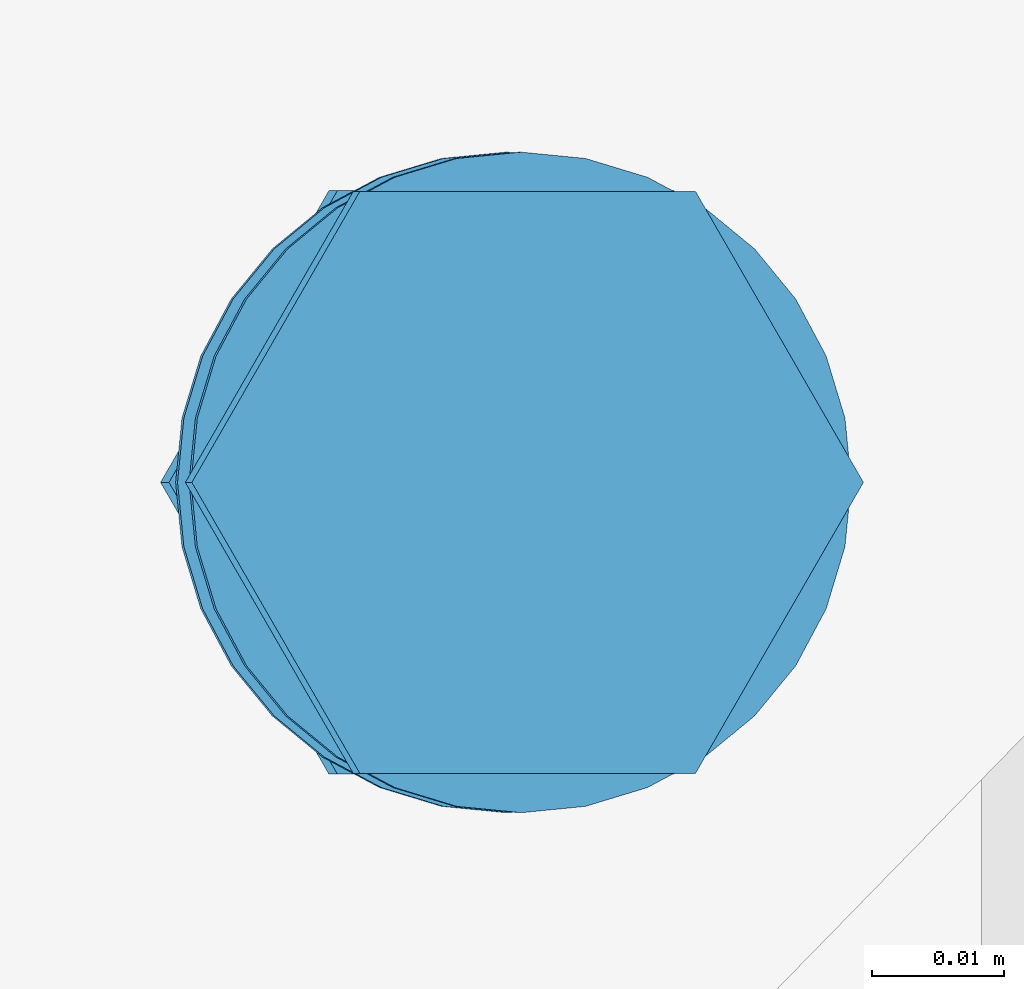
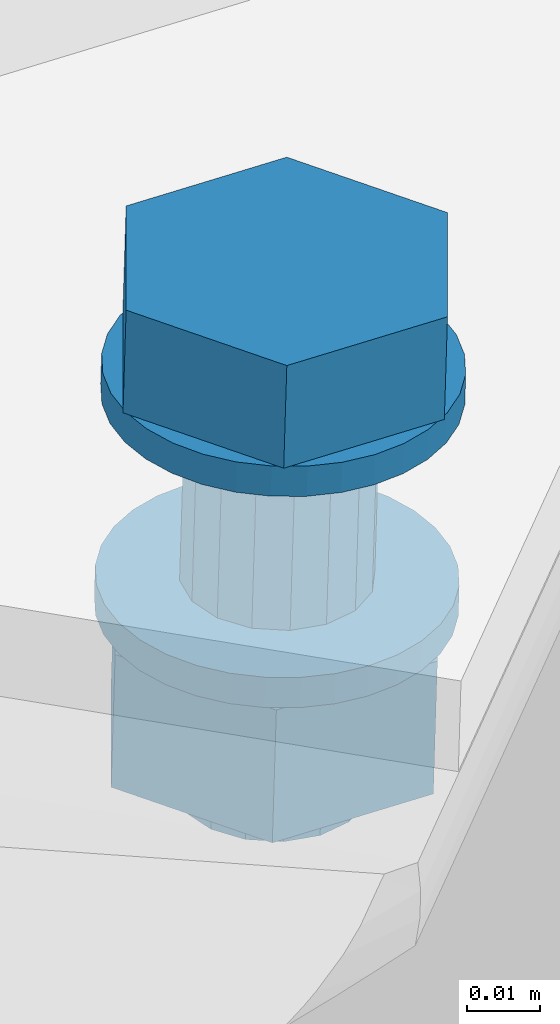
# One storey, part 247 of 476: 1 mechanical fastener.
"""IFC2X3 building model written with IfcOpenShell, lengths in millimetres."""

import ifcopenshell
import ifcopenshell.guid

model = None  # the IFC model being written
_history = None  # IfcOwnerHistory: only IFC2X3 demands one
_inside = {}  # id of a spatial element -> (the spatial element, [elements in it])
_under = {}  # id of a project, library or spatial element -> (it, [spatial elements below it])
_declared = {}  # id of a project -> (the project, [libraries it declares])
_typed = {}  # id of a type object -> (the type object, [elements of that type])
_made_of = {}  # id of a material, layer set ... -> (it, [elements and type objects made of it])


def new_model(schema):
    """Start an empty IFC model of exactly this schema.

    Asked for "IFC4X3", IfcOpenShell would pick the latest addendum, in which some entities
    have other attributes; the version numbers below select the first issue.
    IFC2X3 requires an IfcOwnerHistory on every rooted entity: one is made here for all.
    """
    global model, _history
    if schema == "IFC4X3":
        model = ifcopenshell.file(schema_version=(4, 3, 0, 0))
    else:
        model = ifcopenshell.file(schema=schema)
    _inside.clear()
    _under.clear()
    _declared.clear()
    _typed.clear()
    _made_of.clear()
    _history = None
    if model.schema == "IFC2X3":
        org = make("IfcOrganization", Name="unknown")
        user = make(
            "IfcPersonAndOrganization",
            ThePerson=make("IfcPerson", FamilyName="unknown"),
            TheOrganization=org,
        )
        app = make(
            "IfcApplication",
            ApplicationDeveloper=org,
            Version="unknown",
            ApplicationFullName="unknown",
            ApplicationIdentifier="unknown",
        )
        _history = make(
            "IfcOwnerHistory",
            OwningUser=user,
            OwningApplication=app,
            ChangeAction="ADDED",
            CreationDate=0,
        )
    return model


def make(cls, **values):
    """One entity of the class cls with the attributes given. An attribute that is None is left unset."""
    return model.create_entity(
        cls, **{name: value for name, value in values.items() if value is not None}
    )


def entity(cls, *values):
    """Any entity or typed value of the class cls, its attributes in the order of the schema. None: left unset."""
    e = model.create_entity(cls)
    for i, value in enumerate(values):
        if value is not None:
            e[i] = value
    return e


def rooted(cls, **values):
    """An entity with a GlobalId (a new one), such as an element, a storey or a relation."""
    return make(cls, GlobalId=ifcopenshell.guid.new(), OwnerHistory=_history, **values)


def si_unit(unit_type, name, prefix=None):
    """IfcSIUnit, for example si_unit("LENGTHUNIT", "METRE", prefix="MILLI")."""
    return make("IfcSIUnit", UnitType=unit_type, Prefix=prefix, Name=name)


def converted_unit(unit_type, name, factor, base, dimensions=None, offset=None):
    """IfcConversionBasedUnit, such as the inch: factor (a typed value) times the base unit."""
    return make(
        "IfcConversionBasedUnit"
        if offset is None
        else "IfcConversionBasedUnitWithOffset",
        ConversionOffset=offset,
        Dimensions=None
        if dimensions is None
        else entity("IfcDimensionalExponents", *dimensions),
        UnitType=unit_type,
        Name=name,
        ConversionFactor=make(
            "IfcMeasureWithUnit", ValueComponent=factor, UnitComponent=base
        ),
    )


def assignment(units):
    """IfcUnitAssignment: the units of a project."""
    return None if units is None else make("IfcUnitAssignment", Units=units)


def point(xyz):
    """IfcCartesianPoint."""
    return None if xyz is None else make("IfcCartesianPoint", Coordinates=xyz)


def direction(xyz):
    """IfcDirection."""
    return None if xyz is None else make("IfcDirection", DirectionRatios=xyz)


def frame(location, z_axis=None, x_axis=None):
    """IfcAxis2Placement3D, a coordinate frame: its origin and axes. An axis left out is left unset."""
    return make(
        "IfcAxis2Placement3D",
        Location=point(location),
        Axis=direction(z_axis),
        RefDirection=direction(x_axis),
    )


def origin_with_axes():
    """The frame at (0, 0, 0) with the z axis (0, 0, 1) and the x axis (1, 0, 0) written out."""
    return frame((0.0, 0.0, 0.0), z_axis=(0.0, 0.0, 1.0), x_axis=(1.0, 0.0, 0.0))


def place(relative_to, where):
    """IfcLocalPlacement: puts the frame where relative to a parent placement (None: the world)."""
    return make(
        "IfcLocalPlacement", PlacementRelTo=relative_to, RelativePlacement=where
    )


def context(
    kind, dimensions, precision=None, world=None, true_north=None, identifier=None
):
    """IfcGeometricRepresentationContext, for example the 3D "Model" context."""
    return make(
        "IfcGeometricRepresentationContext",
        ContextIdentifier=identifier,
        ContextType=kind,
        CoordinateSpaceDimension=dimensions,
        Precision=precision,
        WorldCoordinateSystem=world,
        TrueNorth=true_north,
    )


def project(units=None, contexts=None):
    """IfcProject with its units and contexts."""
    return rooted(
        "IfcProject",
        Name="project",
        RepresentationContexts=contexts,
        UnitsInContext=assignment(units),
    )


def spatial(cls, under=None, at=None, **own):
    """A site, building, storey or space (cls), placed at a placement, below another one or the project."""
    s = rooted(cls, ObjectPlacement=at, **own)
    if under is not None:
        _under.setdefault(under.id(), (under, []))[1].append(s)
    return s


def faces_of(points, faces, orient=None, outer=None):
    """IfcFace entities. A face is a list of loops; a loop is a list of indices into points, from 0.

    orient and outer hold one flag for each loop. By default every Orientation is true, the
    first loop of a face is its IfcFaceOuterBound and the others are IfcFaceBound.
    """
    made = []
    for i, loops in enumerate(faces):
        bounds = []
        for j, loop in enumerate(loops):
            is_outer = j == 0 if outer is None else outer[i][j]
            bounds.append(
                make(
                    "IfcFaceOuterBound" if is_outer else "IfcFaceBound",
                    Bound=make("IfcPolyLoop", Polygon=[points[k] for k in loop]),
                    Orientation=True if orient is None else orient[i][j],
                )
            )
        made.append(make("IfcFace", Bounds=bounds))
    return made


def faceted_brep(points, faces, orient=None, outer=None, voids=None):
    """IfcFacetedBrep: a solid bounded by flat faces; with voids (closed shells), ...WithVoids."""
    shared = [point(p) for p in points]
    hull = make("IfcClosedShell", CfsFaces=faces_of(shared, faces, orient, outer))
    if voids is None:
        return make("IfcFacetedBrep", Outer=hull)
    return make(
        "IfcFacetedBrepWithVoids",
        Outer=hull,
        Voids=[
            make(cls, CfsFaces=faces_of(shared, fs, o, b)) for cls, fs, o, b in voids
        ],
    )


def shape(context_of_items, identifier, shape_type, items):
    """IfcShapeRepresentation: the items that make up one representation, for example the "Body"."""
    return make(
        "IfcShapeRepresentation",
        ContextOfItems=context_of_items,
        RepresentationIdentifier=identifier,
        RepresentationType=shape_type,
        Items=items,
    )


def made_of(thing, what):
    """Note that an element or type object is made of a material, layer set ...; save() writes the relation."""
    if what is not None:
        _made_of.setdefault(what.id(), (what, []))[1].append(thing)
    return thing


def element(
    cls,
    number,
    at=None,
    inside=None,
    cuts=None,
    type_object=None,
    material=None,
    context=None,
    identifier="Body",
    shape_type=None,
    held_by="IfcProductDefinitionShape",
    body=None,
    shapes=None,
    **own,
):
    """One element of the class cls, such as IfcWall. Its Tag is "e" and its number.

    at: its placement. inside: the storey or other place that contains it. cuts: it is an
    opening in that element (IfcRelVoidsElement). A single representation is given by context,
    identifier, shape_type and body (its items); several are given by shapes. held_by: the class
    of the entity that holds the representations. save() writes the other relations.
    """
    e = rooted(cls, Tag="e%d" % number, ObjectPlacement=at, **own)
    if body is not None:
        shapes = [shape(context, identifier, shape_type, body)]
    if shapes is not None:
        e.Representation = make(held_by, Representations=shapes)
    if inside is not None:
        _inside.setdefault(inside.id(), (inside, []))[1].append(e)
    if cuts is not None:
        rooted(
            "IfcRelVoidsElement", RelatingBuildingElement=cuts, RelatedOpeningElement=e
        )
    if type_object is not None:
        _typed.setdefault(type_object.id(), (type_object, []))[1].append(e)
    return made_of(e, material)


def aggregate(whole, parts):
    """IfcRelAggregates: a whole, such as a stair, and the parts it consists of."""
    return rooted("IfcRelAggregates", RelatingObject=whole, RelatedObjects=parts)


def save(model, path):
    """Write the relations noted so far, then the file.

    IfcRelAggregates (storeys below a building ...), IfcRelContainedInSpatialStructure (elements
    in a storey), IfcRelDefinesByType, IfcRelAssociatesMaterial and IfcRelDeclares: one each for
    every whole, place, type object, material and project.
    """
    for whole, parts in _under.values():
        aggregate(whole, parts)
    for where, things in _inside.values():
        rooted(
            "IfcRelContainedInSpatialStructure",
            RelatedElements=things,
            RelatingStructure=where,
        )
    for kind, things in _typed.values():
        rooted("IfcRelDefinesByType", RelatedObjects=things, RelatingType=kind)
    for what, things in _made_of.values():
        rooted("IfcRelAssociatesMaterial", RelatedObjects=things, RelatingMaterial=what)
    for by, libraries in _declared.values():
        rooted("IfcRelDeclares", RelatingContext=by, RelatedDefinitions=libraries)
    model.write(path)


model = new_model("IFC2X3")

# Units and contexts
model_context = context("Model", 3, precision=1e-09, world=origin_with_axes())
ifc_project = project(units=[si_unit("LENGTHUNIT", "METRE", prefix="MILLI"), si_unit("AREAUNIT", "SQUARE_METRE"), si_unit("VOLUMEUNIT", "CUBIC_METRE"), converted_unit("PLANEANGLEUNIT", "DEGREE", entity("IfcPlaneAngleMeasure", 0.01745329), si_unit("PLANEANGLEUNIT", "RADIAN"), dimensions=[0, 0, 0, 0, 0, 0, 0])], contexts=[model_context])

# Site, building, storey
site_placement = place(None, origin_with_axes())
site = spatial("IfcSite", under=ifc_project, at=site_placement, Name="mKR Teilneubau & Sanierung BA1 - Ostfildern", CompositionType="ELEMENT")
building_placement = place(site_placement, origin_with_axes())
building = spatial("IfcBuilding", under=site, at=building_placement, Name="Struktur 1", CompositionType="ELEMENT")
storey_placement = place(building_placement, origin_with_axes())
storey = spatial("IfcBuildingStorey", under=building, at=storey_placement, Name="Default Storey", CompositionType="ELEMENT", Elevation=0.0)

# Mechanical fastener
mechanical_fastener_placement = place(None, origin_with_axes())
element("IfcMechanicalFastener", 1, at=mechanical_fastener_placement, inside=storey, ObjectType="-", NominalDiameter=27.0, NominalLength=70.0, context=model_context, shape_type="Brep", body=[
    faceted_brep([(23525.63088106, -4349.025407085, 2980.632777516), (23525.776168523, -4349.025407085, 2985.630666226), (23530.651367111, -4349.505775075, 2985.488945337), (23530.506079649, -4349.505775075, 2980.491056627), (23535.339214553, -4350.928418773, 2985.352670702), (23535.19392709, -4350.928418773, 2980.354781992), (23539.659559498, -4353.238666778, 2985.227079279), (23539.514272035, -4353.238666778, 2980.229190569), (23543.446373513, -4356.347737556, 2985.116997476), (23543.301086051, -4356.347737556, 2980.119108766), (23546.554131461, -4360.13615126, 2985.026655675), (23546.408843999, -4360.13615126, 2980.028766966), (23548.863403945, -4364.458321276, 2984.959525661), (23548.718116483, -4364.458321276, 2979.961636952), (23550.28544692, -4369.148149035, 2984.918187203), (23550.140159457, -4369.148149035, 2979.920298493), (23550.765612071, -4374.025407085, 2984.904228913), (23550.620324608, -4374.025407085, 2979.906340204), (23550.28544692, -4378.902665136, 2984.918187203), (23550.140159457, -4378.902665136, 2979.920298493), (23548.863403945, -4383.592492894, 2984.959525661), (23548.718116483, -4383.592492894, 2979.961636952), (23546.554131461, -4387.914662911, 2985.026655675), (23546.408843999, -4387.914662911, 2980.028766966), (23543.446373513, -4391.703076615, 2985.116997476), (23543.301086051, -4391.703076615, 2980.119108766), (23539.659559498, -4394.812147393, 2985.227079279), (23539.514272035, -4394.812147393, 2980.229190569), (23535.339214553, -4397.122395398, 2985.352670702), (23535.19392709, -4397.122395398, 2980.354781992), (23530.651367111, -4398.545039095, 2985.488945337), (23530.506079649, -4398.545039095, 2980.491056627), (23525.776168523, -4399.025407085, 2985.630666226), (23525.63088106, -4399.025407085, 2980.632777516), (23520.900969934, -4398.545039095, 2985.772387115), (23520.755682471, -4398.545039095, 2980.774498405), (23516.213122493, -4397.122395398, 2985.90866175), (23516.06783503, -4397.122395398, 2980.91077304), (23511.892777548, -4394.812147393, 2986.034253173), (23511.747490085, -4394.812147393, 2981.036364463), (23508.105963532, -4391.703076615, 2986.144334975), (23507.960676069, -4391.703076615, 2981.146446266), (23504.998205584, -4387.914662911, 2986.234676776), (23504.852918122, -4387.914662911, 2981.236788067), (23502.6889331, -4383.592492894, 2986.30180679), (23502.543645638, -4383.592492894, 2981.303918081), (23501.266890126, -4378.902665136, 2986.343145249), (23501.121602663, -4378.902665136, 2981.345256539), (23500.786724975, -4374.025407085, 2986.357103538), (23500.641437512, -4374.025407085, 2981.359214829), (23501.266890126, -4369.148149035, 2986.343145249), (23501.121602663, -4369.148149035, 2981.345256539), (23502.6889331, -4364.458321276, 2986.30180679), (23502.543645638, -4364.458321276, 2981.303918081), (23504.998205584, -4360.13615126, 2986.234676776), (23504.852918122, -4360.13615126, 2981.236788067), (23508.105963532, -4356.347737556, 2986.144334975), (23507.960676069, -4356.347737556, 2981.146446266), (23511.892777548, -4353.238666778, 2986.034253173), (23511.747490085, -4353.238666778, 2981.036364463), (23516.213122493, -4350.928418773, 2985.90866175), (23516.06783503, -4350.928418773, 2980.91077304), (23520.900969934, -4349.505775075, 2985.772387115), (23520.755682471, -4349.505775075, 2980.774498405)], [[[0, 1, 2, 3]], [[3, 2, 4, 5]], [[5, 4, 6, 7]], [[7, 6, 8, 9]], [[9, 8, 10, 11]], [[11, 10, 12, 13]], [[13, 12, 14, 15]], [[15, 14, 16, 17]], [[17, 16, 18, 19]], [[19, 18, 20, 21]], [[21, 20, 22, 23]], [[23, 22, 24, 25]], [[25, 24, 26, 27]], [[27, 26, 28, 29]], [[29, 28, 30, 31]], [[31, 30, 32, 33]], [[33, 32, 34, 35]], [[35, 34, 36, 37]], [[37, 36, 38, 39]], [[39, 38, 40, 41]], [[41, 40, 42, 43]], [[43, 42, 44, 45]], [[45, 44, 46, 47]], [[47, 46, 48, 49]], [[49, 48, 50, 51]], [[51, 50, 52, 53]], [[53, 52, 54, 55]], [[55, 54, 56, 57]], [[57, 56, 58, 59]], [[59, 58, 60, 61]], [[61, 60, 62, 63]], [[63, 62, 1, 0]], [[2, 1, 62, 60, 58, 56, 54, 52, 50, 48, 46, 44, 42, 40, 38, 36, 34, 32, 30, 28, 26, 24, 22, 20, 18, 16, 14, 12, 10, 8, 6, 4]], [[63, 0, 3, 5, 7, 9, 11, 13, 15, 17, 19, 21, 23, 25, 27, 29, 31, 33, 35, 37, 39, 41, 43, 45, 47, 49, 51, 53, 55, 57, 59, 61]]]),
    faceted_brep([(23538.977277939, -4396.044102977, 3002.254094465), (23538.483300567, -4396.044102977, 2985.261272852), (23551.190432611, -4374.025407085, 2984.891879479), (23551.684409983, -4374.025407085, 3001.884701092), (23538.483300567, -4352.006711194, 2985.261272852), (23538.977277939, -4352.006711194, 3002.254094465), (23513.069036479, -4352.006711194, 2986.000059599), (23513.563013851, -4352.006711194, 3002.992881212), (23500.361904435, -4374.025407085, 2986.369452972), (23500.855881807, -4374.025407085, 3003.362274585), (23513.069036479, -4396.044102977, 2986.000059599), (23513.563013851, -4396.044102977, 3002.992881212)], [[[0, 1, 2, 3]], [[3, 2, 4, 5]], [[5, 4, 6, 7]], [[7, 6, 8, 9]], [[9, 8, 10, 11]], [[11, 10, 1, 0]], [[3, 5, 7, 9, 11, 0]], [[2, 1, 10, 8, 6, 4]]]),
    faceted_brep([(23524.759156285, -4360.525407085, 2950.645445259), (23525.630871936, -4360.525407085, 2980.632463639), (23530.794916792, -4361.553033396, 2980.482346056), (23529.923201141, -4361.553033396, 2950.495327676), (23535.172782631, -4364.479465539, 2980.355082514), (23534.30106698, -4364.479465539, 2950.368064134), (23538.097979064, -4368.859180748, 2980.270047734), (23537.226263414, -4368.859180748, 2950.283029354), (23539.125171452, -4374.025407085, 2980.24018749), (23538.253455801, -4374.025407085, 2950.25316911), (23538.097979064, -4379.191633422, 2980.270047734), (23537.226263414, -4379.191633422, 2950.283029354), (23535.172782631, -4383.571348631, 2980.355082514), (23534.30106698, -4383.571348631, 2950.368064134), (23530.794916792, -4386.497780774, 2980.482346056), (23529.923201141, -4386.497780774, 2950.495327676), (23525.630871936, -4387.525407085, 2980.632463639), (23524.759156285, -4387.525407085, 2950.645445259), (23520.46682708, -4386.497780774, 2980.782581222), (23519.595111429, -4386.497780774, 2950.795562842), (23516.088961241, -4383.571348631, 2980.909844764), (23515.21724559, -4383.571348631, 2950.922826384), (23513.163764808, -4379.191633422, 2980.994879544), (23512.292049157, -4379.191633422, 2951.007861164), (23512.13657242, -4374.025407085, 2981.024739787), (23511.264856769, -4374.025407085, 2951.037721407), (23513.163764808, -4368.859180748, 2980.994879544), (23512.292049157, -4368.859180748, 2951.007861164), (23516.088961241, -4364.479465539, 2980.909844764), (23515.21724559, -4364.479465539, 2950.922826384), (23520.46682708, -4361.553033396, 2980.782581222), (23519.595111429, -4361.553033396, 2950.795562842)], [[[0, 1, 2, 3]], [[3, 2, 4, 5]], [[5, 4, 6, 7]], [[7, 6, 8, 9]], [[9, 8, 10, 11]], [[11, 10, 12, 13]], [[13, 12, 14, 15]], [[15, 14, 16, 17]], [[17, 16, 18, 19]], [[19, 18, 20, 21]], [[21, 20, 22, 23]], [[23, 22, 24, 25]], [[25, 24, 26, 27]], [[27, 26, 28, 29]], [[29, 28, 30, 31]], [[31, 30, 1, 0]], [[2, 1, 30, 28, 26, 24, 22, 20, 18, 16, 14, 12, 10, 8, 6, 4]], [[31, 0, 3, 5, 7, 9, 11, 13, 15, 17, 19, 21, 23, 25, 27, 29]]]),
    faceted_brep([(23524.613868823, -4349.025407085, 2945.647556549), (23524.759156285, -4349.025407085, 2950.645445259), (23529.634354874, -4349.505775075, 2950.50372437), (23529.489067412, -4349.505775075, 2945.50583566), (23534.322202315, -4350.928418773, 2950.367449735), (23534.176914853, -4350.928418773, 2945.369561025), (23538.64254726, -4353.238666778, 2950.241858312), (23538.497259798, -4353.238666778, 2945.243969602), (23542.429361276, -4356.347737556, 2950.131776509), (23542.284073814, -4356.347737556, 2945.133887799), (23545.537119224, -4360.13615126, 2950.041434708), (23545.391831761, -4360.13615126, 2945.043545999), (23547.846391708, -4364.458321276, 2949.974304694), (23547.701104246, -4364.458321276, 2944.976415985), (23549.268434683, -4369.148149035, 2949.932966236), (23549.12314722, -4369.148149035, 2944.935077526), (23549.748599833, -4374.025407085, 2949.919007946), (23549.603312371, -4374.025407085, 2944.921119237), (23549.268434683, -4378.902665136, 2949.932966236), (23549.12314722, -4378.902665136, 2944.935077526), (23547.846391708, -4383.592492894, 2949.974304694), (23547.701104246, -4383.592492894, 2944.976415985), (23545.537119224, -4387.914662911, 2950.041434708), (23545.391831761, -4387.914662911, 2945.043545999), (23542.429361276, -4391.703076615, 2950.131776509), (23542.284073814, -4391.703076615, 2945.133887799), (23538.64254726, -4394.812147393, 2950.241858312), (23538.497259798, -4394.812147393, 2945.243969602), (23534.322202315, -4397.122395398, 2950.367449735), (23534.176914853, -4397.122395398, 2945.369561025), (23529.634354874, -4398.545039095, 2950.50372437), (23529.489067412, -4398.545039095, 2945.50583566), (23524.759156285, -4399.025407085, 2950.645445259), (23524.613868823, -4399.025407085, 2945.647556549), (23519.883957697, -4398.545039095, 2950.787166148), (23519.738670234, -4398.545039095, 2945.789277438), (23515.196110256, -4397.122395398, 2950.923440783), (23515.050822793, -4397.122395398, 2945.925552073), (23510.87576531, -4394.812147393, 2951.049032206), (23510.730477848, -4394.812147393, 2946.051143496), (23507.088951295, -4391.703076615, 2951.159114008), (23506.943663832, -4391.703076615, 2946.161225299), (23503.981193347, -4387.914662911, 2951.249455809), (23503.835905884, -4387.914662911, 2946.2515671), (23501.671920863, -4383.592492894, 2951.316585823), (23501.5266334, -4383.592492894, 2946.318697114), (23500.249877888, -4378.902665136, 2951.357924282), (23500.104590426, -4378.902665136, 2946.360035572), (23499.769712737, -4374.025407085, 2951.371882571), (23499.624425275, -4374.025407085, 2946.373993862), (23500.249877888, -4369.148149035, 2951.357924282), (23500.104590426, -4369.148149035, 2946.360035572), (23501.671920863, -4364.458321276, 2951.316585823), (23501.5266334, -4364.458321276, 2946.318697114), (23503.981193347, -4360.13615126, 2951.249455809), (23503.835905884, -4360.13615126, 2946.2515671), (23507.088951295, -4356.347737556, 2951.159114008), (23506.943663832, -4356.347737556, 2946.161225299), (23510.87576531, -4353.238666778, 2951.049032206), (23510.730477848, -4353.238666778, 2946.051143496), (23515.196110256, -4350.928418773, 2950.923440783), (23515.050822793, -4350.928418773, 2945.925552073), (23519.883957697, -4349.505775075, 2950.787166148), (23519.738670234, -4349.505775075, 2945.789277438)], [[[0, 1, 2, 3]], [[3, 2, 4, 5]], [[5, 4, 6, 7]], [[7, 6, 8, 9]], [[9, 8, 10, 11]], [[11, 10, 12, 13]], [[13, 12, 14, 15]], [[15, 14, 16, 17]], [[17, 16, 18, 19]], [[19, 18, 20, 21]], [[21, 20, 22, 23]], [[23, 22, 24, 25]], [[25, 24, 26, 27]], [[27, 26, 28, 29]], [[29, 28, 30, 31]], [[31, 30, 32, 33]], [[33, 32, 34, 35]], [[35, 34, 36, 37]], [[37, 36, 38, 39]], [[39, 38, 40, 41]], [[41, 40, 42, 43]], [[43, 42, 44, 45]], [[45, 44, 46, 47]], [[47, 46, 48, 49]], [[49, 48, 50, 51]], [[51, 50, 52, 53]], [[53, 52, 54, 55]], [[55, 54, 56, 57]], [[57, 56, 58, 59]], [[59, 58, 60, 61]], [[61, 60, 62, 63]], [[63, 62, 1, 0]], [[2, 1, 62, 60, 58, 56, 54, 52, 50, 48, 46, 44, 42, 40, 38, 36, 34, 32, 30, 28, 26, 24, 22, 20, 18, 16, 14, 12, 10, 8, 6, 4]], [[63, 0, 3, 5, 7, 9, 11, 13, 15, 17, 19, 21, 23, 25, 27, 29, 31, 33, 35, 37, 39, 41, 43, 45, 47, 49, 51, 53, 55, 57, 59, 61]]]),
    faceted_brep([(23537.358485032, -4396.109054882, 2945.27707352), (23536.719220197, -4396.109054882, 2923.286363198), (23549.463836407, -4374.025407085, 2922.915880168), (23550.103101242, -4374.025407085, 2944.90659049), (23536.719220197, -4351.941759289, 2923.286363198), (23537.358485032, -4351.941759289, 2945.27707352), (23511.229987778, -4351.941759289, 2924.027329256), (23511.869252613, -4351.941759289, 2946.018039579), (23498.485371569, -4374.025407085, 2924.397812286), (23499.124636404, -4374.025407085, 2946.388522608), (23511.229987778, -4396.109054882, 2924.027329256), (23511.869252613, -4396.109054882, 2946.018039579)], [[[0, 1, 2, 3]], [[3, 2, 4, 5]], [[5, 4, 6, 7]], [[7, 6, 8, 9]], [[9, 8, 10, 11]], [[11, 10, 1, 0]], [[3, 5, 7, 9, 11, 0]], [[2, 1, 10, 8, 6, 4]]]),
    faceted_brep([(23523.742144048, -4360.525407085, 2915.660224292), (23523.974613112, -4360.525407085, 2923.657160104), (23529.138657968, -4361.553033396, 2923.507042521), (23528.906188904, -4361.553033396, 2915.510106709), (23533.516523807, -4364.479465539, 2923.37977898), (23533.284054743, -4364.479465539, 2915.382843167), (23536.44172024, -4368.859180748, 2923.2947442), (23536.209251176, -4368.859180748, 2915.297808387), (23537.468912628, -4374.025407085, 2923.264883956), (23537.236443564, -4374.025407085, 2915.267948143), (23536.44172024, -4379.191633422, 2923.2947442), (23536.209251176, -4379.191633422, 2915.297808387), (23533.516523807, -4383.571348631, 2923.37977898), (23533.284054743, -4383.571348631, 2915.382843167), (23529.138657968, -4386.497780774, 2923.507042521), (23528.906188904, -4386.497780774, 2915.510106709), (23523.974613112, -4387.525407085, 2923.657160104), (23523.742144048, -4387.525407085, 2915.660224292), (23518.810568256, -4386.497780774, 2923.807277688), (23518.578099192, -4386.497780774, 2915.810341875), (23514.432702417, -4383.571348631, 2923.934541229), (23514.200233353, -4383.571348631, 2915.937605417), (23511.507505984, -4379.191633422, 2924.019576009), (23511.27503692, -4379.191633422, 2916.022640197), (23510.480313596, -4374.025407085, 2924.049436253), (23510.247844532, -4374.025407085, 2916.05250044), (23511.507505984, -4368.859180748, 2924.019576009), (23511.27503692, -4368.859180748, 2916.022640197), (23514.432702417, -4364.479465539, 2923.934541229), (23514.200233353, -4364.479465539, 2915.937605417), (23518.810568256, -4361.553033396, 2923.807277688), (23518.578099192, -4361.553033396, 2915.810341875)], [[[0, 1, 2, 3]], [[3, 2, 4, 5]], [[5, 4, 6, 7]], [[7, 6, 8, 9]], [[9, 8, 10, 11]], [[11, 10, 12, 13]], [[13, 12, 14, 15]], [[15, 14, 16, 17]], [[17, 16, 18, 19]], [[19, 18, 20, 21]], [[21, 20, 22, 23]], [[23, 22, 24, 25]], [[25, 24, 26, 27]], [[27, 26, 28, 29]], [[29, 28, 30, 31]], [[31, 30, 1, 0]], [[2, 1, 30, 28, 26, 24, 22, 20, 18, 16, 14, 12, 10, 8, 6, 4]], [[31, 0, 3, 5, 7, 9, 11, 13, 15, 17, 19, 21, 23, 25, 27, 29]]]),
])

save(model, "model.ifc")
